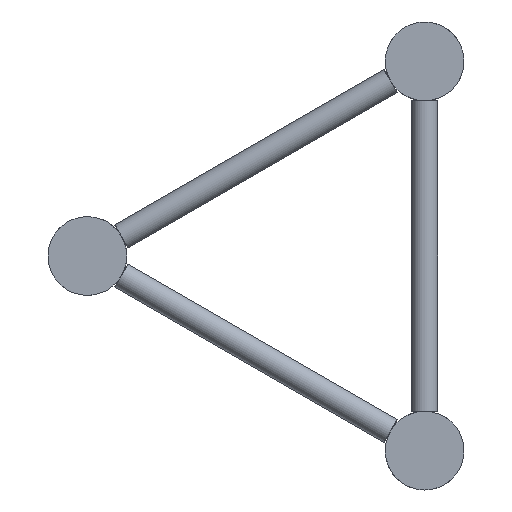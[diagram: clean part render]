
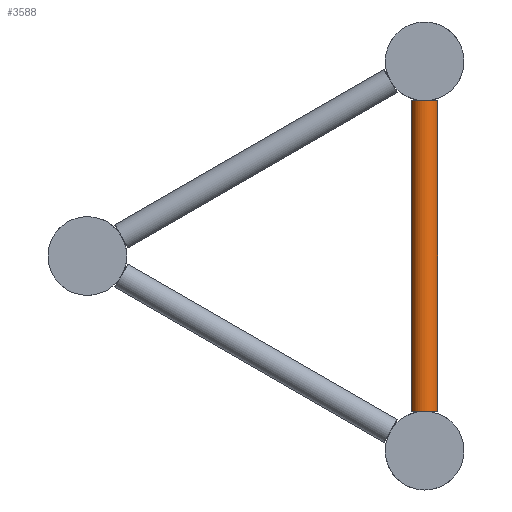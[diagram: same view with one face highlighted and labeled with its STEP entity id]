
A CAD part, left-side view. The second image highlights one B-rep face of the part: STEP entity #3588.
In plain terms, the highlighted cylindrical face has radius 8 mm (diameter 16 mm), a full revolution.
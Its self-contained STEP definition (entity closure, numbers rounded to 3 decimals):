
#522=CYLINDRICAL_SURFACE('',#3952,8.);
#669=FACE_BOUND('',#1213,.T.);
#857=FACE_OUTER_BOUND('',#1212,.T.);
#1212=EDGE_LOOP('',(#2701,#2702));
#1213=EDGE_LOOP('',(#2703,#2704));
#1377=CIRCLE('',#3742,8.);
#1394=CIRCLE('',#3949,8.);
#1395=CIRCLE('',#3951,8.);
#1396=CIRCLE('',#3953,8.);
#1461=VERTEX_POINT('',#5263);
#1462=VERTEX_POINT('',#5264);
#1621=VERTEX_POINT('',#5867);
#1622=VERTEX_POINT('',#5868);
#1795=EDGE_CURVE('',#1462,#1461,#1377,.T.);
#2018=EDGE_CURVE('',#1622,#1621,#1394,.T.);
#2019=EDGE_CURVE('',#1621,#1622,#1395,.T.);
#2020=EDGE_CURVE('',#1461,#1462,#1396,.T.);
#2701=ORIENTED_EDGE('',*,*,#2018,.T.);
#2702=ORIENTED_EDGE('',*,*,#2019,.T.);
#2703=ORIENTED_EDGE('',*,*,#1795,.T.);
#2704=ORIENTED_EDGE('',*,*,#2020,.T.);
#3588=ADVANCED_FACE('',(#857,#669),#522,.T.);
#3742=AXIS2_PLACEMENT_3D('',#5438,#4263,#4264);
#3949=AXIS2_PLACEMENT_3D('',#6181,#4757,#4758);
#3951=AXIS2_PLACEMENT_3D('',#6183,#4761,#4762);
#3952=AXIS2_PLACEMENT_3D('',#6184,#4763,#4764);
#3953=AXIS2_PLACEMENT_3D('',#6185,#4765,#4766);
#4263=DIRECTION('center_axis',(0.,0.,
-1.));
#4264=DIRECTION('ref_axis',(-1.,0.,0.));
#4757=DIRECTION('center_axis',(0.,0.,
1.));
#4758=DIRECTION('ref_axis',(-1.,0.,0.));
#4761=DIRECTION('center_axis',(0.,0.,
1.));
#4762=DIRECTION('ref_axis',(-1.,0.,0.));
#4763=DIRECTION('center_axis',(0.,0.,
1.));
#4764=DIRECTION('ref_axis',(-1.,0.,0.));
#4765=DIRECTION('center_axis',(0.,0.,
-1.));
#4766=DIRECTION('ref_axis',(-1.,0.,0.));
#5263=CARTESIAN_POINT('',(52.,0.,-24.15));
#5264=CARTESIAN_POINT('',(68.,0.,-24.15));
#5438=CARTESIAN_POINT('Origin',(60.,0.,-24.15));
#5867=CARTESIAN_POINT('',(52.,0.,-214.85));
#5868=CARTESIAN_POINT('',(68.,0.,-214.85));
#6181=CARTESIAN_POINT('Origin',(60.,0.,-214.85));
#6183=CARTESIAN_POINT('Origin',(60.,0.,-214.85));
#6184=CARTESIAN_POINT('Origin',(60.,0.,-119.5));
#6185=CARTESIAN_POINT('Origin',(60.,0.,-24.15));
